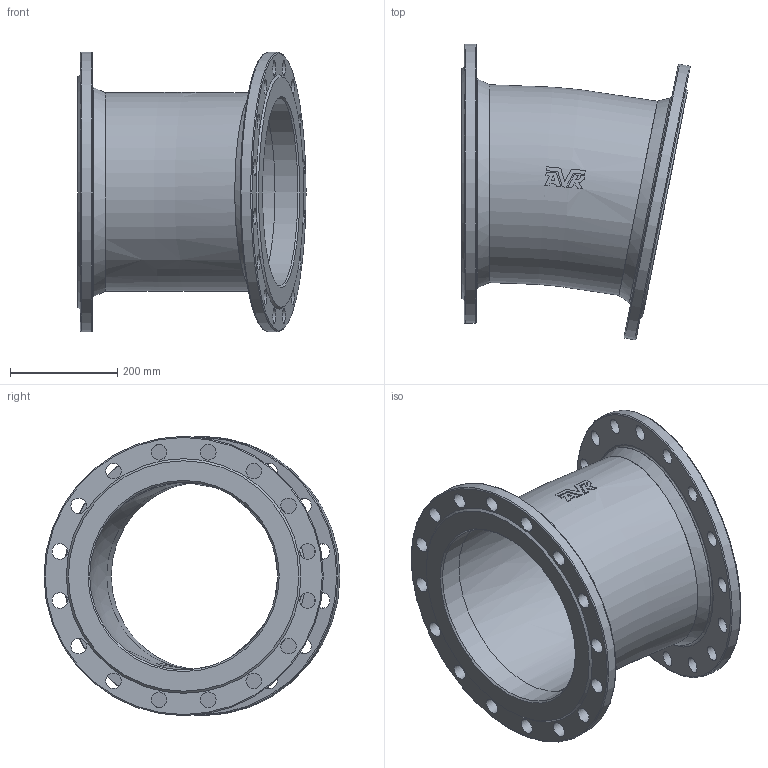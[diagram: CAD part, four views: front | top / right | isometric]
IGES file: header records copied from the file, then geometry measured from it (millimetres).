
Start section: SolidWorks IGES file using analytic representation for surfaces
Global section: file name: \\avksan2\techshare\PBM outline export from Enovia\O_712_0110_DN350_1X_REV01.igs; native system: SolidWorks 2022; preprocessor: SolidWorks 2022; author: pbm; date: 240815.110642; units: millimetre
Bounding box: 424.76 x 551.11 x 520 mm (x, y, z)
Surface area: 1313793.3 mm2 (no closed solid volume)
Topology: 0 solids, 0 shells, 97 faces, 486 edges, 436 vertices
Faces by surface type: revolution 56, bspline 41
